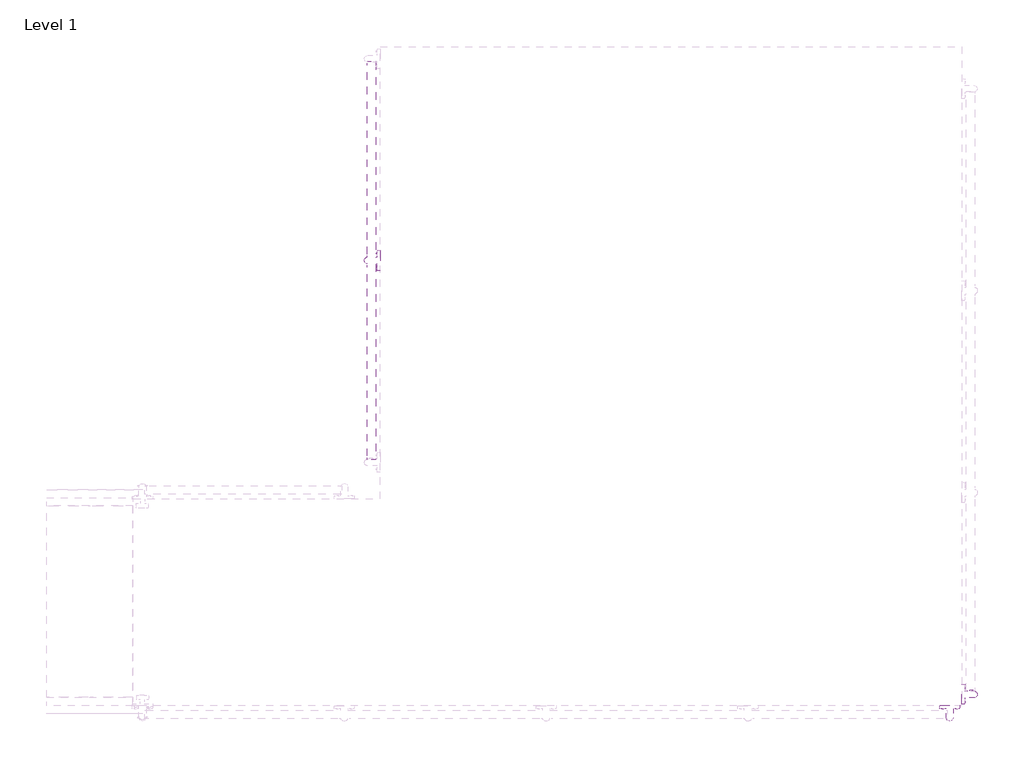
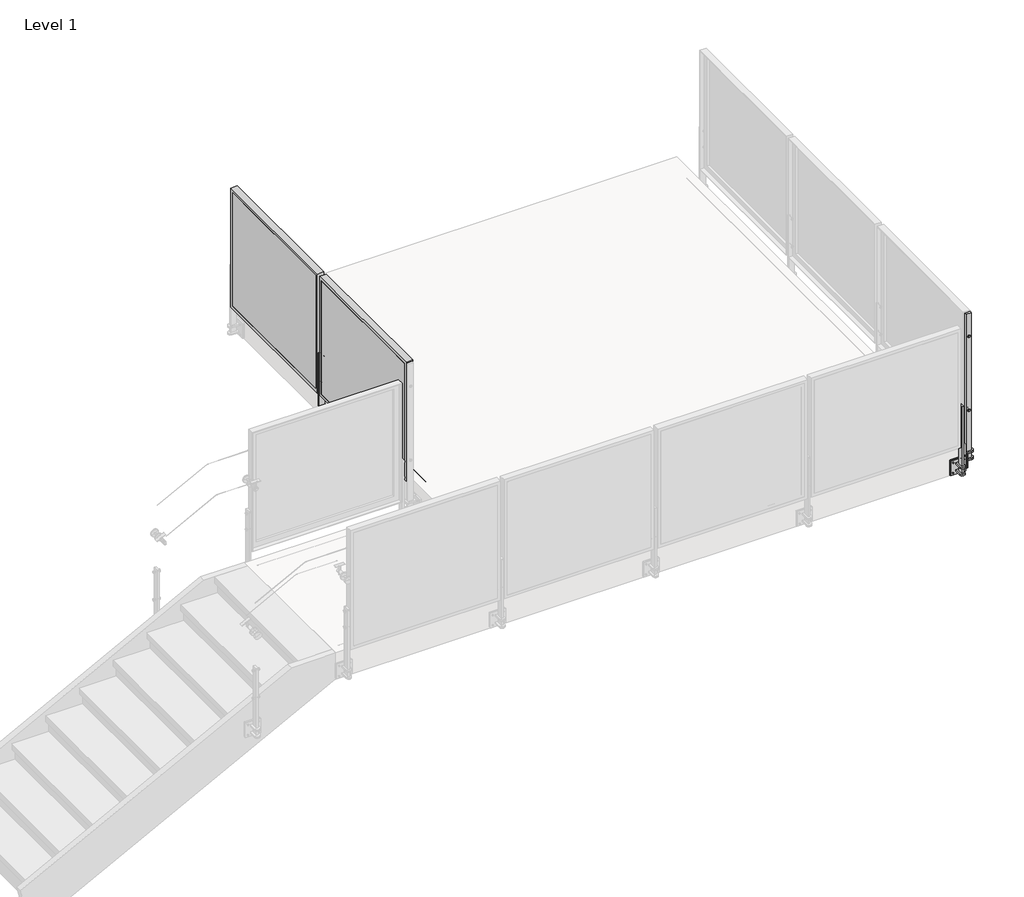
# One storey, part 27 of 37: 2 proxies, 1 railing.
"""IFC4 building model written with IfcOpenShell, lengths in millimetres."""

from ifc_helpers import new_model, si_unit, point, frame, frame_2d, origin, place, context, project, spatial, polyline, circle_curve, trimmed, segment, composite_curve, outline, extrude, faceted_brep, transform, mapped, element, save
from ifc_brep_helpers import plane_surface, cylinder_surface, advanced_brep
from components import baluster_end_post_viva_frame_top_mount_welded_fascia_mount_f3869cb3, baluster_end_post_viva_frame_top_mount_welded_fascia_mount_b105cd36

model = new_model("IFC4")

# Units and contexts
model_context = context("Model", 3, world=origin())
ifc_project = project(units=[si_unit("LENGTHUNIT", "METRE", prefix="MILLI")], contexts=[model_context])

# Site, building, storey
site = spatial("IfcSite", under=ifc_project)
building = spatial("IfcBuilding", under=site)
storey = spatial("IfcBuildingStorey", under=building, Name="Level 1", Elevation=0.0)

# Proxies
placement = place(None, origin())
baluster_end_post_viva_frame_top_mount_welded_fascia_mount_shape = baluster_end_post_viva_frame_top_mount_welded_fascia_mount_f3869cb3(model_context)
element("IfcBuildingElementProxy", 1, Name="Baluster-End-Post-VIVA-FRAME-Top Mount : WELDED Fascia MOUNT FOLD_STRAIGHT", ObjectType="Baluster-End-Post-VIVA-FRAME-Top Mount : WELDED Fascia MOUNT FOLD_STRAIGHT", at=placement, inside=storey, context=model_context, shape_type="MappedRepresentation", body=[
    mapped(baluster_end_post_viva_frame_top_mount_welded_fascia_mount_shape, transform((-2332.9434339, -3841.0034112, 3047.492), x_axis=(1.0, 0.0, 0.0), y_axis=(0.0, 1.0, 0.0), z_axis=(0.0, 0.0, 1.0))),
])
baluster_end_post_viva_frame_top_mount_welded_fascia_mount_2_shape = baluster_end_post_viva_frame_top_mount_welded_fascia_mount_b105cd36(model_context)
element("IfcBuildingElementProxy", 2, Name="Baluster-End-Post-VIVA-FRAME-Top Mount : WELDED Fascia MOUNT FOLD_STRAIGHT", ObjectType="Baluster-End-Post-VIVA-FRAME-Top Mount : WELDED Fascia MOUNT FOLD_STRAIGHT", at=placement, inside=storey, context=model_context, shape_type="MappedRepresentation", body=[
    mapped(baluster_end_post_viva_frame_top_mount_welded_fascia_mount_2_shape, transform((-2330.1000339, -3842.9169538, 3047.492), x_axis=(0.0, 1.0, 0.0), y_axis=(-1.0, 0.0, 0.0), z_axis=(0.0, 0.0, 1.0))),
])

# Railing
element("IfcRailing", 3, ObjectType="Metal-Panel-VIVA-FRAME-Fascia-Straight", at=placement, inside=storey, context=model_context, shape_type="SolidModel", body=[
    extrude(outline(composite_curve([segment(trimmed(circle_curve(frame_2d((3047.746, -5845.6776401)), 0.254), [point((3047.746, -5845.4236401))], [point((3047.746, -5845.9316401))], False, "CARTESIAN"), True, "CONTINUOUS"), segment(trimmed(circle_curve(frame_2d((3047.746, -5845.6776401)), 0.254), [point((3047.746, -5845.9316401))], [point((3047.746, -5845.4236401))], False, "CARTESIAN"), True, "CONTINUOUS")], self_intersect=False)), frame((0.0, -2383.0312725, 0.0), z_axis=(0.0, 1.0, 0.0), x_axis=(0.0, 0.0, 1.0)), (0.0, 0.0, 1.0), 2540.0),
    extrude(outline(composite_curve([segment(trimmed(circle_curve(frame_2d((3047.746, -5845.6776401)), 0.254), [point((3047.746, -5845.4236401))], [point((3047.746, -5845.9316401))], False, "CARTESIAN"), True, "CONTINUOUS"), segment(trimmed(circle_curve(frame_2d((3047.746, -5845.6776401)), 0.254), [point((3047.746, -5845.9316401))], [point((3047.746, -5845.4236401))], False, "CARTESIAN"), True, "CONTINUOUS")], self_intersect=False)), frame((0.0, -2383.0312725, 0.0), z_axis=(0.0, 1.0, 0.0), x_axis=(0.0, 0.0, 1.0)), (0.0, 0.0, 1.0), 2540.0),
    extrude(outline(polyline([(-6000.1364401, -1072.2048155), (-6000.1364401, 116.1422706), (-5997.1364401, 116.1422706), (-5997.1364401, -1072.2048155), (-6000.1364401, -1072.2048155)])), frame((0.0, 0.0, 3124.1959569), z_axis=(0.0, 0.0, 1.0), x_axis=(1.0, 0.0, 0.0)), (0.0, 0.0, 1.0), 990.5826861),
    faceted_brep([(-6000.1364401, -1097.6048155, 4140.1786431), (-6000.1364401, 141.5422706, 4140.1786431), (-6000.1364401, 141.5422706, 3098.7959569), (-6000.1364401, -1097.6048155, 3098.7959569), (-6000.1364401, -1072.2048155, 4114.7786431), (-6000.1364401, -1072.2048155, 3124.1959569), (-6000.1364401, 116.1422706, 3124.1959569), (-6000.1364401, 116.1422706, 4114.7786431), (-5997.1364401, -1072.2048155, 3124.1959569), (-5997.1364401, 116.1422706, 3124.1959569), (-5997.1364401, 116.1422706, 4114.7786431), (-5997.1364401, -1072.2048155, 4114.7786431), (-5946.3364401, -1091.6104155, 3104.7903569), (-5946.3364401, 135.5478706, 3104.7903569), (-5977.1466401, 135.5478706, 3104.7903569), (-5977.1466401, -1091.6104155, 3104.7903569), (-5946.3364401, 135.5478706, 4134.1842431), (-5977.1466401, 135.5478706, 4134.1842431), (-5977.1466401, -1091.6104155, 4134.1842431), (-5946.3364401, -1091.6104155, 4134.1842431), (-5946.3364401, 141.5422706, 3098.7959569), (-5946.3364401, 141.5422706, 4140.1786431), (-5946.3364401, -1097.6048155, 4140.1786431), (-5946.3364401, -1097.6048155, 3098.7959569), (-5997.1364401, -1046.8048155, 4089.3786431), (-5997.1364401, -1046.8048155, 3149.5959569), (-5997.1364401, 90.7422706, 3149.5959569), (-5997.1364401, 90.7422706, 4089.3786431), (-5977.1466401, 90.7422706, 3149.5959569), (-5977.1466401, -1046.8048155, 3149.5959569), (-5977.1466401, -1046.8048155, 4089.3786431), (-5977.1466401, 90.7422706, 4089.3786431)], [[[0, 1, 2, 3], [4, 5, 6, 7]], [[5, 8, 9, 6]], [[6, 9, 10, 7]], [[7, 10, 11, 4]], [[4, 11, 8, 5]], [[12, 13, 14, 15]], [[13, 16, 17, 14]], [[15, 18, 19, 12]], [[20, 21, 22, 23], [12, 19, 16, 13]], [[23, 22, 0, 3]], [[23, 3, 2, 20]], [[2, 1, 21, 20]], [[22, 21, 1, 0]], [[11, 10, 9, 8], [24, 25, 26, 27]], [[14, 17, 18, 15], [28, 29, 30, 31]], [[18, 17, 16, 19]], [[27, 31, 30, 24]], [[26, 28, 31, 27]], [[25, 29, 28, 26]], [[24, 30, 29, 25]]]),
    extrude(outline(composite_curve([segment(trimmed(circle_curve(frame_2d((-5994.5613468, -1113.0312725)), 22.225), [point((-5994.5613468, -1135.2562725))], [point((-5994.5613468, -1090.8062725))], False, "CARTESIAN"), True, "CONTINUOUS"), segment(polyline([(-5994.5613468, -1090.8062725), (-5936.6604401, -1090.8062725), (-5936.6604401, -1135.2562725), (-5994.5613468, -1135.2562725)]), True, "CONTINUOUS")], self_intersect=False)), frame((0.0, 0.0, 2859.0748), z_axis=(0.0, 0.0, 1.0), x_axis=(1.0, 0.0, 0.0)), (0.0, 0.0, 1.0), 12.7),
    extrude(outline(composite_curve([segment(polyline([(-5936.6604401, -1090.8062725), (-5936.6604401, -1135.2562725), (-5994.5613468, -1135.2562725)]), True, "CONTINUOUS"), segment(trimmed(circle_curve(frame_2d((-5994.5613468, -1113.0312725)), 22.225), [point((-5994.5613468, -1135.2562725))], [point((-5994.5613468, -1090.8062725))], False, "CARTESIAN"), True, "CONTINUOUS"), segment(polyline([(-5994.5613468, -1090.8062725), (-5936.6604401, -1090.8062725)]), True, "CONTINUOUS")], self_intersect=False)), frame((0.0, 0.0, 2921.0), z_axis=(0.0, 0.0, 1.0), x_axis=(1.0, 0.0, 0.0)), (0.0, 0.0, 1.0), 12.7),
    extrude(outline(composite_curve([segment(trimmed(circle_curve(frame_2d((-1068.5863406, 2941.6502)), 4.7752), [point((-1063.8111406, 2941.6502))], [point((-1073.3615406, 2941.6502))], False, "CARTESIAN"), True, "CONTINUOUS"), segment(trimmed(circle_curve(frame_2d((-1068.5863406, 2941.6502)), 4.7752), [point((-1073.3615406, 2941.6502))], [point((-1063.8111406, 2941.6502))], False, "CARTESIAN"), True, "CONTINUOUS")], self_intersect=False)), frame((-5941.4356401, 0.0, 0.0), z_axis=(1.0, 0.0, 0.0), x_axis=(0.0, 1.0, 0.0)), (0.0, 0.0, 1.0), 14.3002),
    extrude(outline(composite_curve([segment(trimmed(circle_curve(frame_2d((-1157.4762044, 2941.6502)), 4.7752), [point((-1152.7010044, 2941.6502))], [point((-1162.2514044, 2941.6502))], False, "CARTESIAN"), True, "CONTINUOUS"), segment(trimmed(circle_curve(frame_2d((-1157.4762044, 2941.6502)), 4.7752), [point((-1162.2514044, 2941.6502))], [point((-1152.7010044, 2941.6502))], False, "CARTESIAN"), True, "CONTINUOUS")], self_intersect=False)), frame((-5941.4356401, 0.0, 0.0), z_axis=(1.0, 0.0, 0.0), x_axis=(0.0, 1.0, 0.0)), (0.0, 0.0, 1.0), 14.3002),
    extrude(outline(composite_curve([segment(trimmed(circle_curve(frame_2d((-1157.4762044, 2852.7502)), 4.7752), [point((-1152.7010044, 2852.7502))], [point((-1162.2514044, 2852.7502))], False, "CARTESIAN"), True, "CONTINUOUS"), segment(trimmed(circle_curve(frame_2d((-1157.4762044, 2852.7502)), 4.7752), [point((-1162.2514044, 2852.7502))], [point((-1152.7010044, 2852.7502))], False, "CARTESIAN"), True, "CONTINUOUS")], self_intersect=False)), frame((-5941.4356401, 0.0, 0.0), z_axis=(1.0, 0.0, 0.0), x_axis=(0.0, 1.0, 0.0)), (0.0, 0.0, 1.0), 14.3002),
    extrude(outline(composite_curve([segment(trimmed(circle_curve(frame_2d((-1068.5863406, 2852.7502)), 4.7752), [point((-1063.8111406, 2852.7502))], [point((-1073.3615406, 2852.7502))], False, "CARTESIAN"), True, "CONTINUOUS"), segment(trimmed(circle_curve(frame_2d((-1068.5863406, 2852.7502)), 4.7752), [point((-1073.3615406, 2852.7502))], [point((-1063.8111406, 2852.7502))], False, "CARTESIAN"), True, "CONTINUOUS")], self_intersect=False)), frame((-5941.4356401, 0.0, 0.0), z_axis=(1.0, 0.0, 0.0), x_axis=(0.0, 1.0, 0.0)), (0.0, 0.0, 1.0), 14.3002),
    extrude(outline(polyline([(-5927.1354401, -1049.5332509), (-5917.6104401, -1049.5332509), (-5917.6104401, -1176.529294), (-5927.1354401, -1176.529294), (-5927.1354401, -1049.5332509)])), frame((0.0, 0.0, 2833.7002), z_axis=(0.0, 0.0, 1.0), x_axis=(1.0, 0.0, 0.0)), (0.0, 0.0, 1.0), 127.0),
    extrude(outline(polyline([(-5936.6604401, -1049.5332509), (-5927.1354401, -1049.5332509), (-5927.1354401, -1176.529294), (-5936.6604401, -1176.529294), (-5936.6604401, -1049.5332509)])), frame((0.0, 0.0, 2833.7002), z_axis=(0.0, 0.0, 1.0), x_axis=(1.0, 0.0, 0.0)), (0.0, 0.0, 1.0), 127.0),
    advanced_brep(
    [(-5974.7604401, -1139.2186725, 3178.1496), (-5974.7604401, -1139.2186725, 3187.7), (-5974.7604401, -1139.2186725, 3197.2504), (-5974.7604401, -1134.4434725, 3178.1496), (-5974.7604401, -1134.4434725, 3197.2504), (-5974.7604401, -1134.4434725, 3182.9248), (-5974.7604401, -1134.4434725, 3192.4752), (-5974.7604401, -1091.6190725, 3182.9248), (-5974.7604401, -1091.6190725, 3192.4752), (-5974.7604401, -1091.6190725, 3178.1496), (-5974.7604401, -1091.6190725, 3197.2504), (-5974.7604401, -1086.8438725, 3178.1496), (-5974.7604401, -1086.8438725, 3197.2504), (-5974.7604401, -1086.8438725, 3187.7)],
    [
        (0, 1),
        (1, 2),
        (2, 0, circle_curve(frame((-5974.7604401, -1139.2186725, 3187.7), z_axis=(0.0, -1.0, 0.0), x_axis=(0.0, 0.0, 1.0)), 9.5504)),
        (0, 2, circle_curve(frame((-5974.7604401, -1139.2186725, 3187.7), z_axis=(0.0, -1.0, 0.0), x_axis=(0.0, 0.0, 1.0)), 9.5504)),
        (3, 0),
        (2, 4),
        (4, 3, circle_curve(frame((-5974.7604401, -1134.4434725, 3187.7), z_axis=(0.0, -1.0, 0.0), x_axis=(0.0, 0.0, 1.0)), 9.5504)),
        (3, 4, circle_curve(frame((-5974.7604401, -1134.4434725, 3187.7), z_axis=(0.0, -1.0, 0.0), x_axis=(0.0, 0.0, 1.0)), 9.5504)),
        (5, 3),
        (4, 6),
        (6, 5, circle_curve(frame((-5974.7604401, -1134.4434725, 3187.7), z_axis=(0.0, -1.0, 0.0), x_axis=(0.0, 0.0, 1.0)), 4.7752)),
        (5, 6, circle_curve(frame((-5974.7604401, -1134.4434725, 3187.7), z_axis=(0.0, -1.0, 0.0), x_axis=(0.0, 0.0, 1.0)), 4.7752)),
        (7, 5),
        (6, 8),
        (8, 7, circle_curve(frame((-5974.7604401, -1091.6190725, 3187.7), z_axis=(0.0, -1.0, 0.0), x_axis=(0.0, 0.0, 1.0)), 4.7752)),
        (7, 8, circle_curve(frame((-5974.7604401, -1091.6190725, 3187.7), z_axis=(0.0, -1.0, 0.0), x_axis=(0.0, 0.0, 1.0)), 4.7752)),
        (9, 7),
        (8, 10),
        (10, 9, circle_curve(frame((-5974.7604401, -1091.6190725, 3187.7), z_axis=(0.0, -1.0, 0.0), x_axis=(0.0, 0.0, 1.0)), 9.5504)),
        (9, 10, circle_curve(frame((-5974.7604401, -1091.6190725, 3187.7), z_axis=(0.0, -1.0, 0.0), x_axis=(0.0, 0.0, 1.0)), 9.5504)),
        (11, 9),
        (10, 12),
        (12, 11, circle_curve(frame((-5974.7604401, -1086.8438725, 3187.7), z_axis=(0.0, -1.0, 0.0), x_axis=(0.0, 0.0, 1.0)), 9.5504)),
        (11, 12, circle_curve(frame((-5974.7604401, -1086.8438725, 3187.7), z_axis=(0.0, -1.0, 0.0), x_axis=(0.0, 0.0, 1.0)), 9.5504)),
        (13, 11),
        (12, 13),
    ],
    [
        plane_surface(frame((-5974.7604401, -1139.2186725, 3187.7), z_axis=(0.0, -1.0, 0.0), x_axis=(0.0, 0.0, 1.0))),
        cylinder_surface(frame((-5974.7604401, -4530.7990296, 3187.7), z_axis=(0.0, 1.0, 0.0), x_axis=(0.0, 0.0, 1.0)), 9.5504),
        plane_surface(frame((-5974.7604401, -1134.4434725, 3187.7), z_axis=(0.0, 1.0, 0.0), x_axis=(0.0, 0.0, 1.0))),
        cylinder_surface(frame((-5974.7604401, -4530.7990296, 3187.7), z_axis=(0.0, 1.0, 0.0), x_axis=(0.0, 0.0, 1.0)), 4.7752),
        plane_surface(frame((-5974.7604401, -1091.6190725, 3187.7), z_axis=(0.0, -1.0, 0.0), x_axis=(0.0, 0.0, 1.0))),
        plane_surface(frame((-5974.7604401, -1086.8438725, 3187.7), z_axis=(0.0, 1.0, 0.0), x_axis=(0.0, 0.0, 1.0))),
    ],
    [
        (0, [[1, 2, 3]]),
        (0, [[-2, -1, 4]]),
        (1, [[5, -3, 6, 7]]),
        (1, [[-6, -4, -5, 8]]),
        (2, [[9, -7, 10, 11]]),
        (2, [[-10, -8, -9, 12]]),
        (3, [[13, -11, 14, 15]]),
        (3, [[-14, -12, -13, 16]]),
        (4, [[17, -15, 18, 19]]),
        (4, [[-18, -16, -17, 20]]),
        (1, [[21, -19, 22, 23]]),
        (1, [[-22, -20, -21, 24]]),
        (5, [[25, -23, 26]]),
        (5, [[-26, -24, -25]]),
    ],
),
    advanced_brep(
    [(-5974.7604401, -1139.2186725, 3419.4496), (-5974.7604401, -1139.2186725, 3429.0), (-5974.7604401, -1139.2186725, 3438.5504), (-5974.7604401, -1134.4434725, 3419.4496), (-5974.7604401, -1134.4434725, 3438.5504), (-5974.7604401, -1134.4434725, 3424.2248), (-5974.7604401, -1134.4434725, 3433.7752), (-5974.7604401, -1091.6190725, 3424.2248), (-5974.7604401, -1091.6190725, 3433.7752), (-5974.7604401, -1091.6190725, 3419.4496), (-5974.7604401, -1091.6190725, 3438.5504), (-5974.7604401, -1086.8438725, 3419.4496), (-5974.7604401, -1086.8438725, 3438.5504), (-5974.7604401, -1086.8438725, 3429.0)],
    [
        (0, 1),
        (1, 2),
        (2, 0, circle_curve(frame((-5974.7604401, -1139.2186725, 3429.0), z_axis=(0.0, -1.0, 0.0), x_axis=(0.0, 0.0, 1.0)), 9.5504)),
        (0, 2, circle_curve(frame((-5974.7604401, -1139.2186725, 3429.0), z_axis=(0.0, -1.0, 0.0), x_axis=(0.0, 0.0, 1.0)), 9.5504)),
        (3, 0),
        (2, 4),
        (4, 3, circle_curve(frame((-5974.7604401, -1134.4434725, 3429.0), z_axis=(0.0, -1.0, 0.0), x_axis=(0.0, 0.0, 1.0)), 9.5504)),
        (3, 4, circle_curve(frame((-5974.7604401, -1134.4434725, 3429.0), z_axis=(0.0, -1.0, 0.0), x_axis=(0.0, 0.0, 1.0)), 9.5504)),
        (5, 3),
        (4, 6),
        (6, 5, circle_curve(frame((-5974.7604401, -1134.4434725, 3429.0), z_axis=(0.0, -1.0, 0.0), x_axis=(0.0, 0.0, 1.0)), 4.7752)),
        (5, 6, circle_curve(frame((-5974.7604401, -1134.4434725, 3429.0), z_axis=(0.0, -1.0, 0.0), x_axis=(0.0, 0.0, 1.0)), 4.7752)),
        (7, 5),
        (6, 8),
        (8, 7, circle_curve(frame((-5974.7604401, -1091.6190725, 3429.0), z_axis=(0.0, -1.0, 0.0), x_axis=(0.0, 0.0, 1.0)), 4.7752)),
        (7, 8, circle_curve(frame((-5974.7604401, -1091.6190725, 3429.0), z_axis=(0.0, -1.0, 0.0), x_axis=(0.0, 0.0, 1.0)), 4.7752)),
        (9, 7),
        (8, 10),
        (10, 9, circle_curve(frame((-5974.7604401, -1091.6190725, 3429.0), z_axis=(0.0, -1.0, 0.0), x_axis=(0.0, 0.0, 1.0)), 9.5504)),
        (9, 10, circle_curve(frame((-5974.7604401, -1091.6190725, 3429.0), z_axis=(0.0, -1.0, 0.0), x_axis=(0.0, 0.0, 1.0)), 9.5504)),
        (11, 9),
        (10, 12),
        (12, 11, circle_curve(frame((-5974.7604401, -1086.8438725, 3429.0), z_axis=(0.0, -1.0, 0.0), x_axis=(0.0, 0.0, 1.0)), 9.5504)),
        (11, 12, circle_curve(frame((-5974.7604401, -1086.8438725, 3429.0), z_axis=(0.0, -1.0, 0.0), x_axis=(0.0, 0.0, 1.0)), 9.5504)),
        (13, 11),
        (12, 13),
    ],
    [
        plane_surface(frame((-5974.7604401, -1139.2186725, 3429.0), z_axis=(0.0, -1.0, 0.0), x_axis=(0.0, 0.0, 1.0))),
        cylinder_surface(frame((-5974.7604401, -4530.7990296, 3429.0), z_axis=(0.0, 1.0, 0.0), x_axis=(0.0, 0.0, 1.0)), 9.5504),
        plane_surface(frame((-5974.7604401, -1134.4434725, 3429.0), z_axis=(0.0, 1.0, 0.0), x_axis=(0.0, 0.0, 1.0))),
        cylinder_surface(frame((-5974.7604401, -4530.7990296, 3429.0), z_axis=(0.0, 1.0, 0.0), x_axis=(0.0, 0.0, 1.0)), 4.7752),
        plane_surface(frame((-5974.7604401, -1091.6190725, 3429.0), z_axis=(0.0, -1.0, 0.0), x_axis=(0.0, 0.0, 1.0))),
        plane_surface(frame((-5974.7604401, -1086.8438725, 3429.0), z_axis=(0.0, 1.0, 0.0), x_axis=(0.0, 0.0, 1.0))),
    ],
    [
        (0, [[1, 2, 3]]),
        (0, [[-2, -1, 4]]),
        (1, [[5, -3, 6, 7]]),
        (1, [[-6, -4, -5, 8]]),
        (2, [[9, -7, 10, 11]]),
        (2, [[-10, -8, -9, 12]]),
        (3, [[13, -11, 14, 15]]),
        (3, [[-14, -12, -13, 16]]),
        (4, [[17, -15, 18, 19]]),
        (4, [[-18, -16, -17, 20]]),
        (1, [[21, -19, 22, 23]]),
        (1, [[-22, -20, -21, 24]]),
        (5, [[25, -23, 26]]),
        (5, [[-26, -24, -25]]),
    ],
),
    extrude(outline(polyline([(-5952.5354401, -1120.9708641), (-5996.9854401, -1120.9708641), (-5996.9854401, -1105.0916808), (-5952.5354401, -1105.0916808), (-5952.5354401, -1120.9708641)])), frame((0.0, 0.0, 2865.4248), z_axis=(0.0, 0.0, 1.0), x_axis=(1.0, 0.0, 0.0)), (0.0, 0.0, 1.0), 588.9752),
    extrude(outline(polyline([(-6000.1364401, -2342.2048155), (-6000.1364401, -1153.8577294), (-5997.1364401, -1153.8577294), (-5997.1364401, -2342.2048155), (-6000.1364401, -2342.2048155)])), frame((0.0, 0.0, 3124.1959569), z_axis=(0.0, 0.0, 1.0), x_axis=(1.0, 0.0, 0.0)), (0.0, 0.0, 1.0), 990.5826861),
    faceted_brep([(-6000.1364401, -2367.6048155, 4140.1786431), (-6000.1364401, -1128.4577294, 4140.1786431), (-6000.1364401, -1128.4577294, 3098.7959569), (-6000.1364401, -2367.6048155, 3098.7959569), (-6000.1364401, -2342.2048155, 4114.7786431), (-6000.1364401, -2342.2048155, 3124.1959569), (-6000.1364401, -1153.8577294, 3124.1959569), (-6000.1364401, -1153.8577294, 4114.7786431), (-5997.1364401, -2342.2048155, 3124.1959569), (-5997.1364401, -1153.8577294, 3124.1959569), (-5997.1364401, -1153.8577294, 4114.7786431), (-5997.1364401, -2342.2048155, 4114.7786431), (-5946.3364401, -2361.6104155, 3104.7903569), (-5946.3364401, -1134.4521294, 3104.7903569), (-5977.1466401, -1134.4521294, 3104.7903569), (-5977.1466401, -2361.6104155, 3104.7903569), (-5946.3364401, -1134.4521294, 4134.1842431), (-5977.1466401, -1134.4521294, 4134.1842431), (-5977.1466401, -2361.6104155, 4134.1842431), (-5946.3364401, -2361.6104155, 4134.1842431), (-5946.3364401, -1128.4577294, 3098.7959569), (-5946.3364401, -1128.4577294, 4140.1786431), (-5946.3364401, -2367.6048155, 4140.1786431), (-5946.3364401, -2367.6048155, 3098.7959569), (-5997.1364401, -2316.8048155, 4089.3786431), (-5997.1364401, -2316.8048155, 3149.5959569), (-5997.1364401, -1179.2577294, 3149.5959569), (-5997.1364401, -1179.2577294, 4089.3786431), (-5977.1466401, -1179.2577294, 3149.5959569), (-5977.1466401, -2316.8048155, 3149.5959569), (-5977.1466401, -2316.8048155, 4089.3786431), (-5977.1466401, -1179.2577294, 4089.3786431)], [[[0, 1, 2, 3], [4, 5, 6, 7]], [[5, 8, 9, 6]], [[6, 9, 10, 7]], [[7, 10, 11, 4]], [[4, 11, 8, 5]], [[12, 13, 14, 15]], [[13, 16, 17, 14]], [[15, 18, 19, 12]], [[20, 21, 22, 23], [12, 19, 16, 13]], [[23, 22, 0, 3]], [[23, 3, 2, 20]], [[2, 1, 21, 20]], [[22, 21, 1, 0]], [[11, 10, 9, 8], [24, 25, 26, 27]], [[14, 17, 18, 15], [28, 29, 30, 31]], [[18, 17, 16, 19]], [[27, 31, 30, 24]], [[26, 28, 31, 27]], [[25, 29, 28, 26]], [[24, 30, 29, 25]]]),
])

save(model, "model.ifc")
